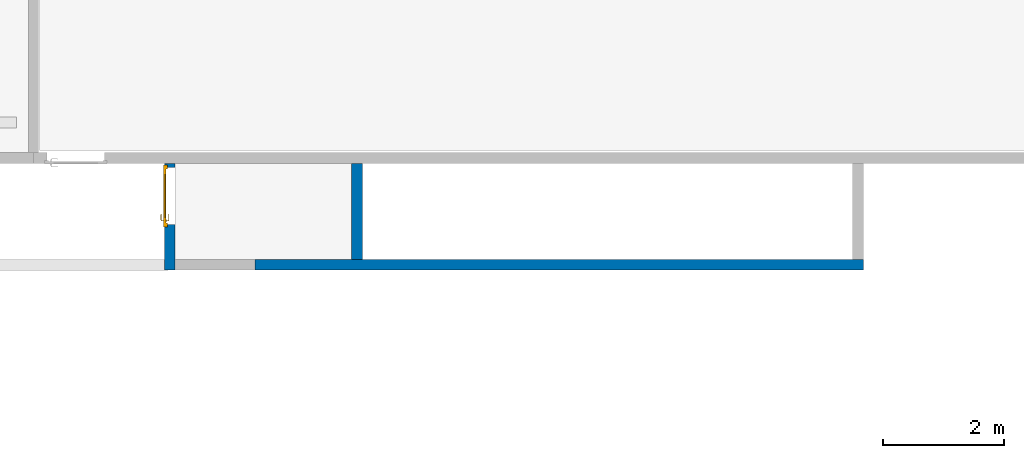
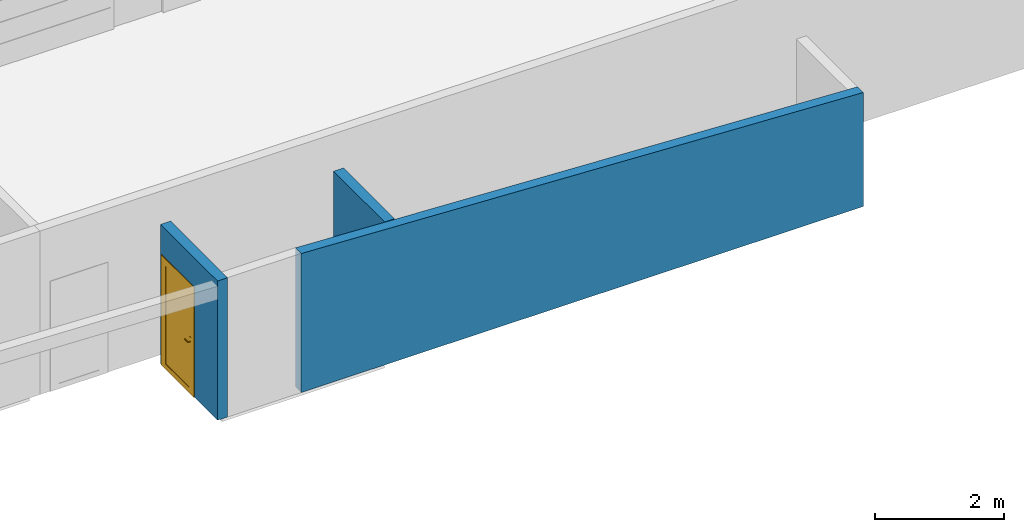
# One storey, part 4 of 9: 3 walls, 1 door, 1 opening.
"""IFC2X3 building model written with IfcOpenShell, lengths in metres."""

import ifcopenshell
import ifcopenshell.guid

model = None  # the IFC model being written
_history = None  # IfcOwnerHistory: only IFC2X3 demands one
_inside = {}  # id of a spatial element -> (the spatial element, [elements in it])
_under = {}  # id of a project, library or spatial element -> (it, [spatial elements below it])
_declared = {}  # id of a project -> (the project, [libraries it declares])
_typed = {}  # id of a type object -> (the type object, [elements of that type])
_made_of = {}  # id of a material, layer set ... -> (it, [elements and type objects made of it])


def new_model(schema):
    """Start an empty IFC model of exactly this schema.

    Asked for "IFC4X3", IfcOpenShell would pick the latest addendum, in which some entities
    have other attributes; the version numbers below select the first issue.
    IFC2X3 requires an IfcOwnerHistory on every rooted entity: one is made here for all.
    """
    global model, _history
    if schema == "IFC4X3":
        model = ifcopenshell.file(schema_version=(4, 3, 0, 0))
    else:
        model = ifcopenshell.file(schema=schema)
    _inside.clear()
    _under.clear()
    _declared.clear()
    _typed.clear()
    _made_of.clear()
    _history = None
    if model.schema == "IFC2X3":
        org = make("IfcOrganization", Name="unknown")
        user = make(
            "IfcPersonAndOrganization",
            ThePerson=make("IfcPerson", FamilyName="unknown"),
            TheOrganization=org,
        )
        app = make(
            "IfcApplication",
            ApplicationDeveloper=org,
            Version="unknown",
            ApplicationFullName="unknown",
            ApplicationIdentifier="unknown",
        )
        _history = make(
            "IfcOwnerHistory",
            OwningUser=user,
            OwningApplication=app,
            ChangeAction="ADDED",
            CreationDate=0,
        )
    return model


def make(cls, **values):
    """One entity of the class cls with the attributes given. An attribute that is None is left unset."""
    return model.create_entity(
        cls, **{name: value for name, value in values.items() if value is not None}
    )


def entity(cls, *values):
    """Any entity or typed value of the class cls, its attributes in the order of the schema. None: left unset."""
    e = model.create_entity(cls)
    for i, value in enumerate(values):
        if value is not None:
            e[i] = value
    return e


def rooted(cls, **values):
    """An entity with a GlobalId (a new one), such as an element, a storey or a relation."""
    return make(cls, GlobalId=ifcopenshell.guid.new(), OwnerHistory=_history, **values)


def si_unit(unit_type, name, prefix=None):
    """IfcSIUnit, for example si_unit("LENGTHUNIT", "METRE", prefix="MILLI")."""
    return make("IfcSIUnit", UnitType=unit_type, Prefix=prefix, Name=name)


def converted_unit(unit_type, name, factor, base, dimensions=None, offset=None):
    """IfcConversionBasedUnit, such as the inch: factor (a typed value) times the base unit."""
    return make(
        "IfcConversionBasedUnit"
        if offset is None
        else "IfcConversionBasedUnitWithOffset",
        ConversionOffset=offset,
        Dimensions=None
        if dimensions is None
        else entity("IfcDimensionalExponents", *dimensions),
        UnitType=unit_type,
        Name=name,
        ConversionFactor=make(
            "IfcMeasureWithUnit", ValueComponent=factor, UnitComponent=base
        ),
    )


def derived_unit(unit_type, elements):
    """IfcDerivedUnit: a product of units, each with its exponent."""
    return make(
        "IfcDerivedUnit",
        Elements=[
            make("IfcDerivedUnitElement", Unit=unit, Exponent=power)
            for unit, power in elements
        ],
        UnitType=unit_type,
    )


def assignment(units):
    """IfcUnitAssignment: the units of a project."""
    return None if units is None else make("IfcUnitAssignment", Units=units)


def point(xyz):
    """IfcCartesianPoint."""
    return None if xyz is None else make("IfcCartesianPoint", Coordinates=xyz)


def direction(xyz):
    """IfcDirection."""
    return None if xyz is None else make("IfcDirection", DirectionRatios=xyz)


def frame(location, z_axis=None, x_axis=None):
    """IfcAxis2Placement3D, a coordinate frame: its origin and axes. An axis left out is left unset."""
    return make(
        "IfcAxis2Placement3D",
        Location=point(location),
        Axis=direction(z_axis),
        RefDirection=direction(x_axis),
    )


def frame_2d(location, x_axis=None):
    """IfcAxis2Placement2D, a coordinate frame in the plane: its origin and x axis."""
    return make(
        "IfcAxis2Placement2D", Location=point(location), RefDirection=direction(x_axis)
    )


def origin():
    """The frame at (0, 0, 0) with its axes left unset."""
    return frame((0.0, 0.0, 0.0))


def place(relative_to, where):
    """IfcLocalPlacement: puts the frame where relative to a parent placement (None: the world)."""
    return make(
        "IfcLocalPlacement", PlacementRelTo=relative_to, RelativePlacement=where
    )


def context(
    kind, dimensions, precision=None, world=None, true_north=None, identifier=None
):
    """IfcGeometricRepresentationContext, for example the 3D "Model" context."""
    return make(
        "IfcGeometricRepresentationContext",
        ContextIdentifier=identifier,
        ContextType=kind,
        CoordinateSpaceDimension=dimensions,
        Precision=precision,
        WorldCoordinateSystem=world,
        TrueNorth=true_north,
    )


def subcontext(parent, identifier, kind, view, scale=None):
    """IfcGeometricRepresentationSubContext, for example "Body" below "Model"."""
    return make(
        "IfcGeometricRepresentationSubContext",
        ContextIdentifier=identifier,
        ContextType=kind,
        ParentContext=parent,
        TargetScale=scale,
        TargetView=view,
    )


def project(units=None, contexts=None):
    """IfcProject with its units and contexts."""
    return rooted(
        "IfcProject",
        Name="project",
        RepresentationContexts=contexts,
        UnitsInContext=assignment(units),
    )


def spatial(cls, under=None, at=None, **own):
    """A site, building, storey or space (cls), placed at a placement, below another one or the project."""
    s = rooted(cls, ObjectPlacement=at, **own)
    if under is not None:
        _under.setdefault(under.id(), (under, []))[1].append(s)
    return s


def polyline(points):
    """IfcPolyline through the points."""
    return make("IfcPolyline", Points=[point(p) for p in points])


def profile(cls, at=None, kind="AREA", **sizes):
    """A parametric profile (cls). Its sizes go by their IFC names, for example OverallWidth=200.0."""
    return make(cls, ProfileType=kind, Position=at, **sizes)


def rectangle(**sizes):
    """IfcRectangleProfileDef."""
    return profile("IfcRectangleProfileDef", **sizes)


def extrude(swept, where, along, depth):
    """IfcExtrudedAreaSolid: the profile swept, set in the frame where, extruded along a direction by depth."""
    return make(
        "IfcExtrudedAreaSolid",
        SweptArea=swept,
        Position=where,
        ExtrudedDirection=direction(along),
        Depth=depth,
    )


def clip(a, b, op="DIFFERENCE"):
    """IfcBooleanClippingResult: the solid a cut by the half space b."""
    return make(
        "IfcBooleanClippingResult", Operator=op, FirstOperand=a, SecondOperand=b
    )


def bounded_halfspace(plane, agree, where, boundary):
    """IfcPolygonalBoundedHalfSpace: a half space limited to a polygon's prism."""
    return make(
        "IfcPolygonalBoundedHalfSpace",
        BaseSurface=make("IfcPlane", Position=plane),
        AgreementFlag=agree,
        Position=where,
        PolygonalBoundary=boundary,
    )


def faces_of(points, faces, orient=None, outer=None):
    """IfcFace entities. A face is a list of loops; a loop is a list of indices into points, from 0.

    orient and outer hold one flag for each loop. By default every Orientation is true, the
    first loop of a face is its IfcFaceOuterBound and the others are IfcFaceBound.
    """
    made = []
    for i, loops in enumerate(faces):
        bounds = []
        for j, loop in enumerate(loops):
            is_outer = j == 0 if outer is None else outer[i][j]
            bounds.append(
                make(
                    "IfcFaceOuterBound" if is_outer else "IfcFaceBound",
                    Bound=make("IfcPolyLoop", Polygon=[points[k] for k in loop]),
                    Orientation=True if orient is None else orient[i][j],
                )
            )
        made.append(make("IfcFace", Bounds=bounds))
    return made


def faceted_brep(points, faces, orient=None, outer=None, voids=None):
    """IfcFacetedBrep: a solid bounded by flat faces; with voids (closed shells), ...WithVoids."""
    shared = [point(p) for p in points]
    hull = make("IfcClosedShell", CfsFaces=faces_of(shared, faces, orient, outer))
    if voids is None:
        return make("IfcFacetedBrep", Outer=hull)
    return make(
        "IfcFacetedBrepWithVoids",
        Outer=hull,
        Voids=[
            make(cls, CfsFaces=faces_of(shared, fs, o, b)) for cls, fs, o, b in voids
        ],
    )


def shape(context_of_items, identifier, shape_type, items):
    """IfcShapeRepresentation: the items that make up one representation, for example the "Body"."""
    return make(
        "IfcShapeRepresentation",
        ContextOfItems=context_of_items,
        RepresentationIdentifier=identifier,
        RepresentationType=shape_type,
        Items=items,
    )


def source(mapping_origin, context_of_items, identifier, shape_type, items):
    """IfcRepresentationMap: a shape defined once, which mapped items show again and again."""
    return make(
        "IfcRepresentationMap",
        MappingOrigin=mapping_origin,
        MappedRepresentation=shape(context_of_items, identifier, shape_type, items),
    )


def transform(
    local_origin,
    x_axis=None,
    y_axis=None,
    z_axis=None,
    scale=None,
    scale2=None,
    scale3=None,
    uniform=True,
):
    """IfcCartesianTransformationOperator3D, or its non-uniform kind. x_axis, y_axis, z_axis: its Axis1, 2, 3."""
    if uniform:
        return make(
            "IfcCartesianTransformationOperator3D",
            Axis1=direction(x_axis),
            Axis2=direction(y_axis),
            LocalOrigin=point(local_origin),
            Scale=scale,
            Axis3=direction(z_axis),
        )
    return make(
        "IfcCartesianTransformationOperator3DnonUniform",
        Axis1=direction(x_axis),
        Axis2=direction(y_axis),
        LocalOrigin=point(local_origin),
        Scale=scale,
        Axis3=direction(z_axis),
        Scale2=scale2,
        Scale3=scale3,
    )


def mapped(mapping_source, mapping_target):
    """IfcMappedItem: shows the shape of a source again, moved by a transform."""
    return make(
        "IfcMappedItem", MappingSource=mapping_source, MappingTarget=mapping_target
    )


def material(Name=None, Category=None):
    """IfcMaterial."""
    return make("IfcMaterial", Name=Name, Category=Category)


def layer(
    of_material, thickness, ventilated=None, Name=None, Category=None, Priority=None
):
    """IfcMaterialLayer: one layer of a wall or slab, of a material (None: an air gap)."""
    return make(
        "IfcMaterialLayer",
        Material=of_material,
        LayerThickness=thickness,
        IsVentilated=ventilated,
        Name=Name,
        Category=Category,
        Priority=Priority,
    )


def layer_set(layers, Name=None):
    """IfcMaterialLayerSet."""
    return make("IfcMaterialLayerSet", MaterialLayers=layers, LayerSetName=Name)


def layer_usage(for_layer_set, set_direction, sense, offset, extent=None):
    """IfcMaterialLayerSetUsage: how a layer set lies in its element."""
    return make(
        "IfcMaterialLayerSetUsage",
        ForLayerSet=for_layer_set,
        LayerSetDirection=set_direction,
        DirectionSense=sense,
        OffsetFromReferenceLine=offset,
        ReferenceExtent=extent,
    )


def made_of(thing, what):
    """Note that an element or type object is made of a material, layer set ...; save() writes the relation."""
    if what is not None:
        _made_of.setdefault(what.id(), (what, []))[1].append(thing)
    return thing


def type_object(cls, material=None, **own):
    """A type object (cls), such as IfcWallType, which elements share."""
    return made_of(rooted(cls, **own), material)


def type_shapes(of_type, sources):
    """Give a type object the sources (RepresentationMaps) that its elements show as mapped items."""
    of_type.RepresentationMaps = sources


def element(
    cls,
    number,
    at=None,
    inside=None,
    cuts=None,
    type_object=None,
    material=None,
    context=None,
    identifier="Body",
    shape_type=None,
    held_by="IfcProductDefinitionShape",
    body=None,
    shapes=None,
    **own,
):
    """One element of the class cls, such as IfcWall. Its Tag is "e" and its number.

    at: its placement. inside: the storey or other place that contains it. cuts: it is an
    opening in that element (IfcRelVoidsElement). A single representation is given by context,
    identifier, shape_type and body (its items); several are given by shapes. held_by: the class
    of the entity that holds the representations. save() writes the other relations.
    """
    e = rooted(cls, Tag="e%d" % number, ObjectPlacement=at, **own)
    if body is not None:
        shapes = [shape(context, identifier, shape_type, body)]
    if shapes is not None:
        e.Representation = make(held_by, Representations=shapes)
    if inside is not None:
        _inside.setdefault(inside.id(), (inside, []))[1].append(e)
    if cuts is not None:
        rooted(
            "IfcRelVoidsElement", RelatingBuildingElement=cuts, RelatedOpeningElement=e
        )
    if type_object is not None:
        _typed.setdefault(type_object.id(), (type_object, []))[1].append(e)
    return made_of(e, material)


def fill(opening, filler):
    """IfcRelFillsElement: the door or window that sits in an opening."""
    return rooted(
        "IfcRelFillsElement",
        RelatingOpeningElement=opening,
        RelatedBuildingElement=filler,
    )


def aggregate(whole, parts):
    """IfcRelAggregates: a whole, such as a stair, and the parts it consists of."""
    return rooted("IfcRelAggregates", RelatingObject=whole, RelatedObjects=parts)


def save(model, path):
    """Write the relations noted so far, then the file.

    IfcRelAggregates (storeys below a building ...), IfcRelContainedInSpatialStructure (elements
    in a storey), IfcRelDefinesByType, IfcRelAssociatesMaterial and IfcRelDeclares: one each for
    every whole, place, type object, material and project.
    """
    for whole, parts in _under.values():
        aggregate(whole, parts)
    for where, things in _inside.values():
        rooted(
            "IfcRelContainedInSpatialStructure",
            RelatedElements=things,
            RelatingStructure=where,
        )
    for kind, things in _typed.values():
        rooted("IfcRelDefinesByType", RelatedObjects=things, RelatingType=kind)
    for what, things in _made_of.values():
        rooted("IfcRelAssociatesMaterial", RelatedObjects=things, RelatingMaterial=what)
    for by, libraries in _declared.values():
        rooted("IfcRelDeclares", RelatingContext=by, RelatedDefinitions=libraries)
    model.write(path)


model = new_model("IFC2X3")

# Units and contexts
model_context = context("Model", 3, precision=1e-05, world=origin(), true_north=direction((6.12303176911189e-17, 1.0)))
body_context = subcontext(model_context, "Body", "Model", "MODEL_VIEW")
ifc_project = project(units=[si_unit("LENGTHUNIT", "METRE"), si_unit("AREAUNIT", "SQUARE_METRE"), si_unit("VOLUMEUNIT", "CUBIC_METRE"), converted_unit("PLANEANGLEUNIT", "DEGREE", entity("IfcRatioMeasure", 0.0174532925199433), si_unit("PLANEANGLEUNIT", "RADIAN"), dimensions=[0, 0, 0, 0, 0, 0, 0]), si_unit("MASSUNIT", "GRAM", prefix="KILO"), derived_unit("MASSDENSITYUNIT", [(si_unit("MASSUNIT", "GRAM", prefix="KILO"), 1), (si_unit("LENGTHUNIT", "METRE"), -3)]), si_unit("TIMEUNIT", "SECOND"), si_unit("FREQUENCYUNIT", "HERTZ"), si_unit("THERMODYNAMICTEMPERATUREUNIT", "DEGREE_CELSIUS"), derived_unit("THERMALTRANSMITTANCEUNIT", [(si_unit("MASSUNIT", "GRAM", prefix="KILO"), 1), (si_unit("THERMODYNAMICTEMPERATUREUNIT", "KELVIN"), -1), (si_unit("TIMEUNIT", "SECOND"), -3)]), derived_unit("VOLUMETRICFLOWRATEUNIT", [(si_unit("LENGTHUNIT", "METRE"), 3), (si_unit("TIMEUNIT", "SECOND"), -1)]), si_unit("ELECTRICCURRENTUNIT", "AMPERE"), si_unit("ELECTRICVOLTAGEUNIT", "VOLT"), si_unit("POWERUNIT", "WATT"), si_unit("FORCEUNIT", "NEWTON", prefix="KILO"), si_unit("ILLUMINANCEUNIT", "LUX"), si_unit("LUMINOUSFLUXUNIT", "LUMEN"), si_unit("LUMINOUSINTENSITYUNIT", "CANDELA"), derived_unit("USERDEFINED", [(si_unit("MASSUNIT", "GRAM", prefix="KILO"), -1), (si_unit("LENGTHUNIT", "METRE"), -2), (si_unit("TIMEUNIT", "SECOND"), 3), (si_unit("LUMINOUSFLUXUNIT", "LUMEN"), 1)]), derived_unit("LINEARVELOCITYUNIT", [(si_unit("LENGTHUNIT", "METRE"), 1), (si_unit("TIMEUNIT", "SECOND"), -1)]), si_unit("PRESSUREUNIT", "PASCAL"), derived_unit("USERDEFINED", [(si_unit("LENGTHUNIT", "METRE"), -2), (si_unit("MASSUNIT", "GRAM", prefix="KILO"), 1), (si_unit("TIMEUNIT", "SECOND"), -2)])], contexts=[model_context])

# Site, building, storey
site_placement = place(None, origin())
site = spatial("IfcSite", under=ifc_project, at=site_placement, Name="Default", CompositionType="ELEMENT")
building_placement = place(site_placement, origin())
building = spatial("IfcBuilding", under=site, at=building_placement, CompositionType="ELEMENT")
storey_placement = place(building_placement, origin())
storey = spatial("IfcBuildingStorey", under=building, at=storey_placement, Name="Niveau 0", CompositionType="ELEMENT", Elevation=-1.94916083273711e-14)

# Wall
ifc_material_1 = material(Name="Maçonnerie - Voile BA")
ifc_layer = layer(ifc_material_1, 0.18)
ifc_layer_set = layer_set([ifc_layer], Name="Mur de base:Ext. Voile BA 18")
ifc_layer_usage_1 = layer_usage(ifc_layer_set, "AXIS2", "NEGATIVE", 0.09)
wall_type = type_object("IfcWallType", Name="Mur de base:Ext. Voile BA 18", PredefinedType="NOTDEFINED")
wall_1_placement = place(storey_placement, frame((20.1060412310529, -6.71088141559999, -0.17), z_axis=(0.0, 0.0, 1.0), x_axis=(-1.0, 0.0, 0.0)))
element("IfcWallStandardCase", 1, at=wall_1_placement, inside=storey, type_object=wall_type, material=ifc_layer_usage_1, Name="Mur de base:Ext. Voile BA 18", ObjectType="Mur de base:Ext. Voile BA 18", context=body_context, shape_type="Clipping", body=[
    clip(extrude(rectangle(XDim=10.08, YDim=0.18, at=frame_2d((5.04, 8.32667268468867e-17), x_axis=(-1.0, 0.0))), origin(), (0.0, 0.0, 1.0), 2.63575221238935), bounded_halfspace(frame((0.0, -0.0900000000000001, 2.16000000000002), z_axis=(-0.0471451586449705, 0.0, 0.998888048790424), x_axis=(0.998888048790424, 0.0, 0.0471451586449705)), False, frame((0.0, -0.0900000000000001, 2.16000000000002)), polyline([(0.0, 0.0), (10.08, 0.0), (10.08, 0.18), (0.0, 0.18), (0.0, 0.0)]))),
])

# Wall, opening, door
ifc_layer_usage_2 = layer_usage(ifc_layer_set, "AXIS2", "NEGATIVE", 0.09)
wall_2_placement = place(storey_placement, frame((8.61604123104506, -5.03088141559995, -0.17), z_axis=(0.0, 0.0, 1.0), x_axis=(0.0, -1.0, 0.0)))
wall_2 = element("IfcWallStandardCase", 2, at=wall_2_placement, inside=storey, type_object=wall_type, material=ifc_layer_usage_2, Name="Mur de base:Ext. Voile BA 18", ObjectType="Mur de base:Ext. Voile BA 18", context=body_context, shape_type="SweptSolid", body=[
    extrude(rectangle(XDim=1.77, YDim=0.18, at=frame_2d((0.885000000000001, 5.55111512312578e-17), x_axis=(-1.0, 0.0))), origin(), (0.0, 0.0, 1.0), 2.64000000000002),
])
opening_placement = place(wall_2_placement, frame((1.05499999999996, -0.390000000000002, 0.0), z_axis=(0.0, 0.0, 1.0), x_axis=(0.0, 1.0, 0.0)))
opening = element("IfcOpeningElement", 3, at=opening_placement, cuts=wall_2, Name="Mur de base:Ext. Voile BA 18", ObjectType="Opening", context=body_context, shape_type="Brep", body=[
    faceted_brep([(0.780000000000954, 0.0399999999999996, 2.05000000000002), (0.780000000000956, 0.989999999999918, 2.05000000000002), (0.350000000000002, 0.989999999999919, 2.05000000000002), (0.349999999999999, 0.0400000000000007, 2.05000000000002), (0.780000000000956, 0.989999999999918, 0.0), (0.780000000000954, 0.0399999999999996, 0.0), (0.349999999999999, 0.0400000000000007, 0.0), (0.349999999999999, 0.0, 0.0), (0.3, 0.0, 0.0), (0.3, 0.0400000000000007, 0.0), (0.0, 0.0400000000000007, 0.0), (0.0, 0.98999999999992, 0.0), (0.300000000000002, 0.989999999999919, 0.0), (0.300000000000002, 1.02999999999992, 0.0), (0.350000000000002, 1.02999999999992, 0.0), (0.350000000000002, 0.989999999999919, 0.0), (0.0, 0.0400000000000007, 2.05000000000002), (0.0, 0.98999999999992, 2.05000000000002), (0.3, 0.0, 2.09000000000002), (0.300000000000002, 1.02999999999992, 2.09000000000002), (0.300000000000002, 0.98999999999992, 2.05000000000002), (0.3, 0.0400000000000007, 2.05000000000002), (0.349999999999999, 0.0, 2.09000000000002), (0.350000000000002, 1.02999999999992, 2.09000000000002)], [[[0, 1, 2, 3]], [[4, 5, 6, 7, 8, 9, 10, 11, 12, 13, 14, 15]], [[1, 0, 5, 4]], [[5, 0, 3, 6]], [[16, 17, 11, 10]], [[1, 4, 15, 2]], [[9, 8, 18, 19, 13, 12, 20, 21]], [[8, 7, 22, 18]], [[7, 6, 3, 2, 15, 14, 23, 22]], [[19, 18, 22, 23]], [[13, 19, 23, 14]], [[11, 17, 20, 12]], [[16, 10, 9, 21]], [[17, 16, 21, 20]]]),
])
ifc_material_2 = material(Name="PVC - Blanc")
door_style = type_object("IfcDoorStyle", Name="0.93 x 2.04", ConstructionType="NOTDEFINED", OperationType="SINGLE_SWING_LEFT", ParameterTakesPrecedence=False, Sizeable=False, material=ifc_material_2)
shared_shape = source(origin(), body_context, "Body", "Brep", [
    faceted_brep([(0.927025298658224, 0.507412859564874, 1.00778044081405), (0.922974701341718, 0.507412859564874, 1.00778044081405), (0.918999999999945, 0.507412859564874, 1.00699999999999), (0.918999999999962, 0.507412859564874, 0.993000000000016), (0.922974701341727, 0.507412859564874, 0.99221955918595), (0.927025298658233, 0.507412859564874, 0.992219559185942), (0.930999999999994, 0.507412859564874, 0.992999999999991), (0.93099999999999, 0.507412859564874, 1.00699999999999), (0.918999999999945, 0.529898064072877, 1.00699999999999), (0.918999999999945, 0.529898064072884, 0.993000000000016), (0.922974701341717, 0.531544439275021, 1.00778044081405), (0.927025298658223, 0.533222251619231, 1.00778044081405), (0.910838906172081, 0.549408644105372, 1.00778044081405), (0.909161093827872, 0.545358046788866, 1.00778044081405), (0.825793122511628, 0.545358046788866, 1.00778044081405), (0.824115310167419, 0.549408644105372, 1.00778044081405), (0.81645104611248, 0.541744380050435, 1.00778044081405), (0.819315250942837, 0.538880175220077, 1.00778044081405), (0.93099999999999, 0.534868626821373, 1.00699999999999), (0.930999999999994, 0.534868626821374, 0.992999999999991), (0.927025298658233, 0.533222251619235, 0.992219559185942), (0.922974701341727, 0.531544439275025, 0.99221955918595), (0.909161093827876, 0.545358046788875, 0.99221955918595), (0.910838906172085, 0.549408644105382, 0.992219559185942), (0.824115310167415, 0.549408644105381, 0.992219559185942), (0.825793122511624, 0.545358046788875, 0.992219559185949), (0.819315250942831, 0.538880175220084, 0.992219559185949), (0.816451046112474, 0.541744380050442, 0.992219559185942), (0.907514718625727, 0.541383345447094, 1.00699999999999), (0.907514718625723, 0.541383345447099, 0.993000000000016), (0.912485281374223, 0.553383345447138, 1.00699999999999), (0.912485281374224, 0.553383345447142, 0.992999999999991), (0.86747710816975, 0.5413833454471, 1.00699999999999), (0.827439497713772, 0.541383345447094, 1.00699999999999), (0.827439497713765, 0.541383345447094, 0.993000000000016), (0.86747710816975, 0.541383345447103, 0.993000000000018), (0.867477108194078, 0.547537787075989, 1.00787811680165), (0.862399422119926, 0.55338334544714, 1.00699999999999), (0.822468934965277, 0.553383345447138, 1.00699999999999), (0.872554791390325, 0.553383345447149, 0.992999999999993), (0.822468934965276, 0.553383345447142, 0.992999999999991), (0.86747710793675, 0.547537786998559, 0.992121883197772), (0.813640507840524, 0.544554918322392, 1.00699999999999), (0.813640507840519, 0.544554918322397, 0.992999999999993), (0.822125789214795, 0.536069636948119, 0.993000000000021), (0.822125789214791, 0.536069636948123, 1.00699999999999)], [[[0, 1, 2, 3, 4, 5, 6, 7]], [[8, 9, 3, 2]], [[1, 10, 8, 2]], [[1, 0, 11, 12, 13, 10]], [[14, 15, 16, 17]], [[7, 18, 11, 0]], [[18, 7, 6, 19]], [[6, 5, 20, 19]], [[5, 4, 21, 22, 23, 20]], [[24, 25, 26, 27]], [[4, 3, 9, 21]], [[28, 29, 9, 8]], [[8, 10, 13, 28]], [[18, 30, 12, 11]], [[31, 30, 18, 19]], [[19, 20, 23, 31]], [[21, 9, 29, 22]], [[29, 28, 32, 33, 34, 35]], [[36, 32, 13]], [[37, 38, 15]], [[37, 12, 30]], [[36, 12, 37]], [[14, 32, 36]], [[36, 15, 14]], [[28, 13, 32]], [[32, 14, 33]], [[12, 36, 13]], [[15, 36, 37]], [[30, 31, 39, 40, 38, 37]], [[23, 41, 39]], [[24, 39, 41]], [[39, 31, 23]], [[39, 24, 40]], [[22, 35, 41]], [[41, 23, 22]], [[41, 35, 25]], [[35, 22, 29]], [[34, 25, 35]], [[24, 41, 25]], [[17, 16, 42, 43, 27, 26, 44, 45]], [[45, 44, 34, 33]], [[33, 14, 17, 45]], [[15, 38, 42, 16]], [[43, 42, 38, 40]], [[24, 27, 43, 40]], [[34, 44, 26, 25]]]),
    faceted_brep([(0.922974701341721, 0.457412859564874, 1.00778044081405), (0.927025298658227, 0.457412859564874, 1.00778044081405), (0.930999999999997, 0.457412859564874, 1.00699999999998), (0.931000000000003, 0.457412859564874, 0.992999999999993), (0.927025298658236, 0.457412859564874, 0.992219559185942), (0.922974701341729, 0.457412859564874, 0.99221955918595), (0.918999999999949, 0.457412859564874, 0.993000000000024), (0.918999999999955, 0.457412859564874, 1.00699999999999), (0.927025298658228, 0.431408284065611, 1.00778044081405), (0.930999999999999, 0.429761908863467, 1.00699999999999), (0.922974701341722, 0.43308609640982, 1.00778044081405), (0.909298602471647, 0.419409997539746, 1.00778044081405), (0.910976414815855, 0.41535940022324, 1.00778044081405), (0.824142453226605, 0.41535940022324, 1.00778044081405), (0.825820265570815, 0.419409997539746, 1.00778044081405), (0.819342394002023, 0.425887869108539, 1.00778044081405), (0.816478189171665, 0.423023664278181, 1.00778044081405), (0.918999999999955, 0.434732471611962, 1.00699999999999), (0.918999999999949, 0.434732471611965, 0.993000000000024), (0.922974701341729, 0.433086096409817, 0.99221955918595), (0.927025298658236, 0.431408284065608, 0.992219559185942), (0.910976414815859, 0.415359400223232, 0.992219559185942), (0.90929860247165, 0.419409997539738, 0.99221955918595), (0.825820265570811, 0.419409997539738, 0.992219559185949), (0.824142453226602, 0.415359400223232, 0.992219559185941), (0.81647818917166, 0.423023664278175, 0.992219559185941), (0.819342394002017, 0.425887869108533, 0.992219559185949), (0.931000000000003, 0.429761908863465, 0.992999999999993), (0.912622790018, 0.41138469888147, 1.00699999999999), (0.907652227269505, 0.423384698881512, 1.00699999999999), (0.907652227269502, 0.423384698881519, 0.993000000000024), (0.912622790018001, 0.411384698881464, 0.992999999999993), (0.86755943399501, 0.417230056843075, 1.00787811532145), (0.87269230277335, 0.411384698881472, 1.00699999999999), (0.822496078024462, 0.411384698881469, 1.00699999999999), (0.867559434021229, 0.423384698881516, 1.00699999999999), (0.827466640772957, 0.423384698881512, 1.00699999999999), (0.867559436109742, 0.423384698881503, 0.993000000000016), (0.82746664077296, 0.423384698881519, 0.993000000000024), (0.867559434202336, 0.417230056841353, 0.992121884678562), (0.862426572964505, 0.411384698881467, 0.992999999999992), (0.822496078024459, 0.411384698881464, 0.992999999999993), (0.822152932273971, 0.428698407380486, 0.993000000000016), (0.813667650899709, 0.420213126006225, 0.992999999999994), (0.813667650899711, 0.420213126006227, 1.00699999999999), (0.822152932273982, 0.428698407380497, 1.00699999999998)], [[[0, 1, 2, 3, 4, 5, 6, 7]], [[2, 1, 8, 9]], [[1, 0, 10, 11, 12, 8]], [[13, 14, 15, 16]], [[0, 7, 17, 10]], [[18, 17, 7, 6]], [[5, 19, 18, 6]], [[5, 4, 20, 21, 22, 19]], [[23, 24, 25, 26]], [[3, 27, 20, 4]], [[9, 27, 3, 2]], [[9, 8, 12, 28]], [[10, 17, 29, 11]], [[30, 29, 17, 18]], [[18, 19, 22, 30]], [[20, 27, 31, 21]], [[28, 31, 27, 9]], [[12, 32, 33]], [[13, 33, 32]], [[33, 28, 12]], [[33, 13, 34]], [[11, 35, 32]], [[32, 12, 11]], [[32, 35, 14]], [[35, 11, 29]], [[36, 14, 35]], [[13, 32, 14]], [[29, 30, 37, 38, 36, 35]], [[39, 37, 22]], [[40, 41, 24]], [[40, 21, 31]], [[39, 21, 40]], [[23, 37, 39]], [[39, 24, 23]], [[30, 22, 37]], [[37, 23, 38]], [[21, 39, 22]], [[24, 39, 40]], [[31, 28, 33, 34, 41, 40]], [[42, 26, 25, 43, 44, 16, 15, 45]], [[13, 16, 44, 34]], [[36, 45, 15, 14]], [[42, 45, 36, 38]], [[38, 23, 26, 42]], [[24, 41, 43, 25]], [[44, 43, 41, 34]]]),
    faceted_brep([(0.924999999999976, 0.502412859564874, 0.86464101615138), (0.935352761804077, 0.502412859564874, 0.866003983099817), (0.944999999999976, 0.502412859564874, 0.870000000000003), (0.944999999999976, 0.502412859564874, 1.08), (0.935352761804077, 0.502412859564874, 1.08399601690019), (0.924999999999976, 0.502412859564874, 1.08535898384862), (0.914647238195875, 0.502412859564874, 1.08399601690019), (0.904999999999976, 0.502412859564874, 1.08), (0.904999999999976, 0.502412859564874, 0.870000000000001), (0.914647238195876, 0.502412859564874, 0.866003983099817), (0.924999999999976, 0.507412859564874, 1.08535898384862), (0.935352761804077, 0.507412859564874, 1.08399601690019), (0.944999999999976, 0.507412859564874, 1.08), (0.944999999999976, 0.507412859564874, 0.870000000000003), (0.935352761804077, 0.507412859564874, 0.866003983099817), (0.924999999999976, 0.507412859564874, 0.86464101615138), (0.914647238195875, 0.507412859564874, 0.866003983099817), (0.904999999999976, 0.507412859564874, 0.870000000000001), (0.904999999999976, 0.507412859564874, 1.08), (0.914647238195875, 0.507412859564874, 1.08399601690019)], [[[0, 1, 2, 3, 4, 5, 6, 7, 8, 9]], [[10, 11, 12, 13, 14, 15, 16, 17, 18, 19]], [[6, 19, 18, 7]], [[5, 10, 19, 6]], [[4, 11, 10, 5]], [[4, 3, 12, 11]], [[12, 3, 2, 13]], [[1, 14, 13, 2]], [[0, 15, 14, 1]], [[9, 16, 15, 0]], [[9, 8, 17, 16]], [[17, 8, 7, 18]]]),
    faceted_brep([(0.924999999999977, 0.457412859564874, 0.86464101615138), (0.935352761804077, 0.457412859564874, 0.866003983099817), (0.944999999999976, 0.457412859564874, 0.870000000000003), (0.944999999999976, 0.457412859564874, 1.08), (0.935352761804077, 0.457412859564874, 1.08399601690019), (0.924999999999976, 0.457412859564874, 1.08535898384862), (0.914647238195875, 0.457412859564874, 1.08399601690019), (0.904999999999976, 0.457412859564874, 1.08), (0.904999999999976, 0.457412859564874, 0.870000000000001), (0.914647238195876, 0.457412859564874, 0.866003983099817), (0.944999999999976, 0.462412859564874, 1.08), (0.944999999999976, 0.462412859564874, 0.870000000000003), (0.935352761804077, 0.462412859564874, 0.866003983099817), (0.924999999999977, 0.462412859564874, 0.86464101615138), (0.914647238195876, 0.462412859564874, 0.866003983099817), (0.904999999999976, 0.462412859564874, 0.870000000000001), (0.904999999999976, 0.462412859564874, 1.08), (0.914647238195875, 0.462412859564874, 1.08399601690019), (0.924999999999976, 0.462412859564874, 1.08535898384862), (0.935352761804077, 0.462412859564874, 1.08399601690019)], [[[0, 1, 2, 3, 4, 5, 6, 7, 8, 9]], [[10, 11, 12, 13, 14, 15, 16, 17, 18, 19]], [[1, 12, 11, 2]], [[0, 13, 12, 1]], [[9, 14, 13, 0]], [[9, 8, 15, 14]], [[15, 8, 7, 16]], [[6, 17, 16, 7]], [[5, 18, 17, 6]], [[4, 19, 18, 5]], [[4, 3, 10, 19]], [[10, 3, 2, 11]]]),
    faceted_brep([(1.02999999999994, 0.462412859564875, 0.0), (0.979999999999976, 0.462412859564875, 0.0), (0.979999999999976, 0.502412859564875, 0.0), (0.964999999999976, 0.502412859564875, 0.0), (0.964999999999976, 0.522412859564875, 0.0), (1.02999999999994, 0.522412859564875, 0.0), (1.02999999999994, 0.522412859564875, 2.09000000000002), (1.02999999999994, 0.462412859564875, 2.09000000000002), (0.964999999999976, 0.522412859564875, 2.02500000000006), (0.0649999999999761, 0.522412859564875, 2.02500000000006), (0.064999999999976, 0.522412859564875, 0.0), (0.0, 0.522412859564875, 0.0), (0.0, 0.522412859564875, 2.09000000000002), (0.964999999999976, 0.502412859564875, 2.02500000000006), (0.979999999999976, 0.502412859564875, 2.04000000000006), (0.0499999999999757, 0.502412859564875, 2.04000000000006), (0.0499999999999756, 0.502412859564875, 0.0), (0.064999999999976, 0.502412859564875, 0.0), (0.0649999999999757, 0.502412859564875, 2.02500000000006), (0.979999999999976, 0.462412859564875, 2.04000000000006), (0.0, 0.462412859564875, 2.09000000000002), (0.0, 0.462412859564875, 0.0), (0.0499999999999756, 0.462412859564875, 0.0), (0.0499999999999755, 0.462412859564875, 2.04000000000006)], [[[0, 1, 2, 3, 4, 5]], [[5, 6, 7, 0]], [[4, 8, 9, 10, 11, 12, 6, 5]], [[3, 13, 8, 4]], [[2, 14, 15, 16, 17, 18, 13, 3]], [[1, 19, 14, 2]], [[0, 7, 20, 21, 22, 23, 19, 1]], [[11, 21, 20, 12]], [[10, 17, 16, 22, 21, 11]], [[9, 18, 17, 10]], [[15, 23, 22, 16]], [[6, 12, 20, 7]], [[8, 13, 18, 9]], [[14, 19, 23, 15]]]),
    faceted_brep([(0.979999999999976, 0.462412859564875, 2.04000000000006), (0.0499999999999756, 0.462412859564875, 2.04000000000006), (0.0499999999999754, 0.462412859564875, 0.0), (0.979999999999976, 0.462412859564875, 0.0), (0.149999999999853, 0.462412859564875, 1.95000000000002), (0.879999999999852, 0.462412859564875, 1.95000000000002), (0.879999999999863, 0.462412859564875, 0.099999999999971), (0.149999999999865, 0.462412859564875, 0.0999999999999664), (0.979999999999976, 0.502412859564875, 2.04000000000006), (0.979999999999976, 0.502412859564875, 0.0), (0.0499999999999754, 0.502412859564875, 0.0), (0.0499999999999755, 0.502412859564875, 2.04000000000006), (0.879999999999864, 0.502412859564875, 1.95000000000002), (0.149999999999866, 0.502412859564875, 1.95000000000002), (0.149999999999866, 0.502412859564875, 0.100000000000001), (0.879999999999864, 0.502412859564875, 0.100000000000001), (0.149999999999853, 0.470412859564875, 1.95000000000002), (0.149999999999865, 0.470412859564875, 0.0999999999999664), (0.879999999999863, 0.470412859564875, 0.099999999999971), (0.879999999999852, 0.470412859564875, 1.95000000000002), (0.879999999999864, 0.494412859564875, 1.95000000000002), (0.879999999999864, 0.494412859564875, 0.100000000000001), (0.149999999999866, 0.494412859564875, 0.100000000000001), (0.149999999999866, 0.494412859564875, 1.95000000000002)], [[[0, 1, 2, 3], [4, 5, 6, 7]], [[8, 9, 10, 11], [12, 13, 14, 15]], [[3, 9, 8, 0]], [[2, 10, 9, 3]], [[1, 11, 10, 2]], [[0, 8, 11, 1]], [[16, 17, 18, 19]], [[16, 4, 7, 17]], [[17, 7, 6, 18]], [[18, 6, 5, 19]], [[19, 5, 4, 16]], [[20, 21, 22, 23]], [[20, 12, 15, 21]], [[21, 15, 14, 22]], [[22, 14, 13, 23]], [[23, 13, 12, 20]]]),
])
type_shapes(door_style, [shared_shape])
door_placement = place(opening_placement, frame((-0.172412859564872, 1.02999999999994, 0.0), z_axis=(0.0, 0.0, 1.0), x_axis=(0.0, -1.0, 0.0)))
door = element("IfcDoor", 4, at=door_placement, inside=storey, type_object=door_style, material=ifc_material_2, Name="PVC Panneau Plein:0.93 x 2.04", ObjectType="0.93 x 2.04", OverallHeight=2.09000000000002, OverallWidth=1.02999999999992, context=body_context, shape_type="MappedRepresentation", body=[
    mapped(shared_shape, transform((0.0, 0.0, 0.0), scale=1.0)),
])
fill(opening, door)

# Wall
ifc_layer_usage_3 = layer_usage(ifc_layer_set, "AXIS2", "NEGATIVE", 0.09)
wall_3_placement = place(storey_placement, frame((11.7160412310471, -5.03088141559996, -0.17), z_axis=(0.0, 0.0, 1.0), x_axis=(0.0, -1.0, 0.0)))
element("IfcWallStandardCase", 5, at=wall_3_placement, inside=storey, type_object=wall_type, material=ifc_layer_usage_3, Name="Mur de base:Ext. Voile BA 18", ObjectType="Mur de base:Ext. Voile BA 18", context=body_context, shape_type="SweptSolid", body=[
    extrude(rectangle(XDim=1.59, YDim=0.179999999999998, at=frame_2d((0.795000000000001, 0.0), x_axis=(-1.0, 0.0))), origin(), (0.0, 0.0, 1.0), 2.56371475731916),
])

save(model, "model.ifc")
